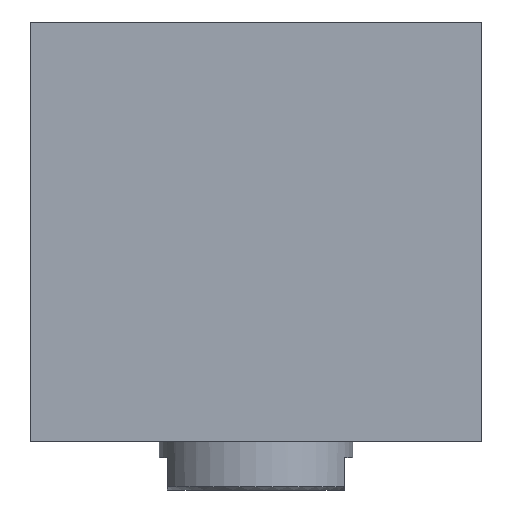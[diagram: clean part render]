
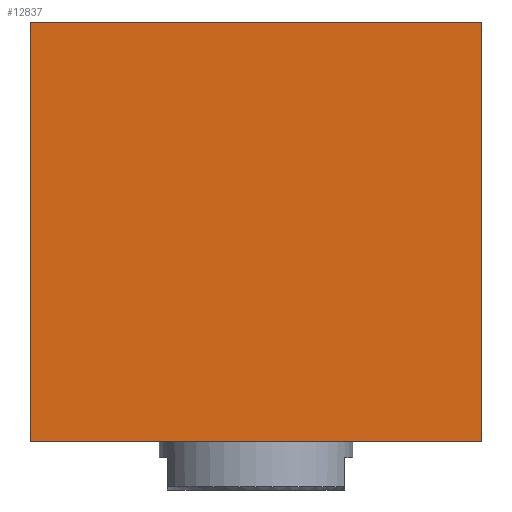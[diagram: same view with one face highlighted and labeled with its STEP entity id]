
A CAD part, left-side view. The second image highlights one B-rep face of the part: STEP entity #12837.
In plain terms, the highlighted planar face has unit normal (-1, 0, 0).
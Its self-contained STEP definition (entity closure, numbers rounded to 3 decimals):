
#624 = VECTOR ( 'NONE', #10244, 1000. ) ;
#803 = VECTOR ( 'NONE', #14029, 1000. ) ;
#911 = EDGE_CURVE ( 'NONE', #2020, #5137, #4424, .T. ) ;
#1449 = CARTESIAN_POINT ( 'NONE',  ( -80., 140., -65. ) ) ;
#2011 = LINE ( 'NONE', #5813, #8877 ) ;
#2020 = VERTEX_POINT ( 'NONE', #13094 ) ;
#2843 = EDGE_CURVE ( 'NONE', #9175, #5137, #11301, .T. ) ;
#4081 = DIRECTION ( 'NONE',  ( 0., -1., 0. ) ) ;
#4424 = LINE ( 'NONE', #15638, #624 ) ;
#5058 = VECTOR ( 'NONE', #4081, 1000. ) ;
#5137 = VERTEX_POINT ( 'NONE', #16211 ) ;
#5813 = CARTESIAN_POINT ( 'NONE',  ( -80., 140., -65. ) ) ;
#6987 = DIRECTION ( 'NONE',  ( 0., 0., 1. ) ) ;
#8038 = DIRECTION ( 'NONE',  ( 1., 0., 0. ) ) ;
#8210 = LINE ( 'NONE', #1449, #5058 ) ;
#8460 = VERTEX_POINT ( 'NONE', #12498 ) ;
#8877 = VECTOR ( 'NONE', #6987, 1000. ) ;
#9175 = VERTEX_POINT ( 'NONE', #9440 ) ;
#9440 = CARTESIAN_POINT ( 'NONE',  ( -80., 0., -65. ) ) ;
#9984 = CARTESIAN_POINT ( 'NONE',  ( -80., 0., -65. ) ) ;
#10244 = DIRECTION ( 'NONE',  ( 0., -1., 0. ) ) ;
#10518 = EDGE_LOOP ( 'NONE', ( #14342, #16588, #12260, #17386 ) ) ;
#10945 = AXIS2_PLACEMENT_3D ( 'NONE', #11948, #8038, #17574 ) ;
#11301 = LINE ( 'NONE', #9984, #803 ) ;
#11405 = FACE_OUTER_BOUND ( 'NONE', #10518, .T. ) ;
#11948 = CARTESIAN_POINT ( 'NONE',  ( -80., 140., -65. ) ) ;
#12260 = ORIENTED_EDGE ( 'NONE', *, *, #15332, .F. ) ;
#12498 = CARTESIAN_POINT ( 'NONE',  ( -80., 140., -65. ) ) ;
#12837 = ADVANCED_FACE ( 'NONE', ( #11405 ), #16199, .F. ) ;
#13094 = CARTESIAN_POINT ( 'NONE',  ( -80., 140., 65. ) ) ;
#14029 = DIRECTION ( 'NONE',  ( 0., 0., 1. ) ) ;
#14342 = ORIENTED_EDGE ( 'NONE', *, *, #2843, .T. ) ;
#15332 = EDGE_CURVE ( 'NONE', #8460, #2020, #2011, .T. ) ;
#15638 = CARTESIAN_POINT ( 'NONE',  ( -80., 140., 65. ) ) ;
#16199 = PLANE ( 'NONE',  #10945 ) ;
#16211 = CARTESIAN_POINT ( 'NONE',  ( -80., 0., 65. ) ) ;
#16588 = ORIENTED_EDGE ( 'NONE', *, *, #911, .F. ) ;
#16886 = EDGE_CURVE ( 'NONE', #8460, #9175, #8210, .T. ) ;
#17386 = ORIENTED_EDGE ( 'NONE', *, *, #16886, .T. ) ;
#17574 = DIRECTION ( 'NONE',  ( 0., 0., -1. ) ) ;
